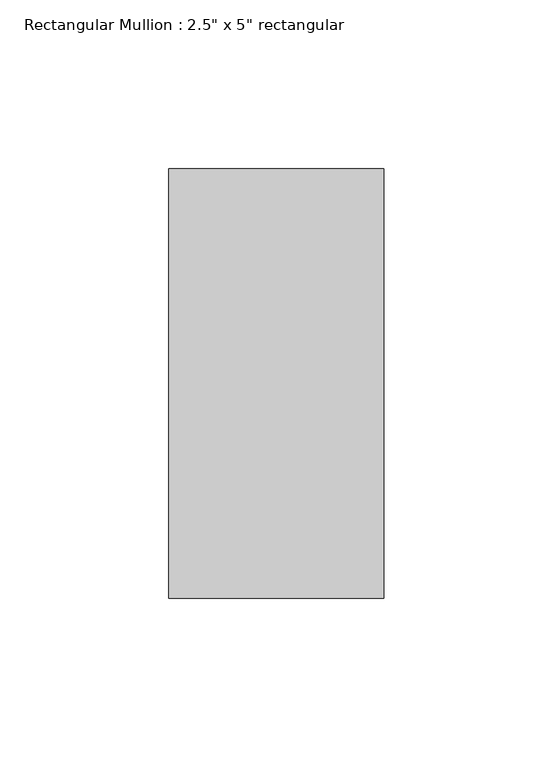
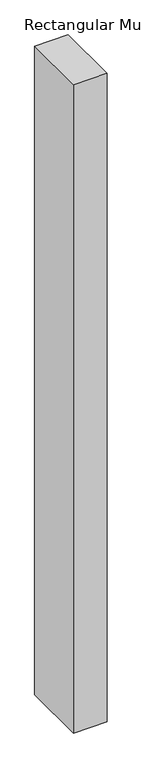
"""IFC4 building model written with IfcOpenShell, lengths in millimetres: member geometry."""

from ifc_helpers import new_model, si_unit, frame, origin, place, context, project, spatial, polyline, outline, extrude, source, transform, mapped, element, save


def member_7bb4584e(model_context):
    return source(origin(), model_context, "Body", "SweptSolid", [
        extrude(outline(polyline([(0.0, 63.5), (0.0, -63.5), (-63.5, -63.5), (-63.5, 63.5), (0.0, 63.5)])), frame((0.0, 0.0, -1296.3071429), z_axis=(0.0, 0.0, 1.0), x_axis=(1.0, 0.0, 0.0)), (0.0, 0.0, 1.0), 1296.3071429),
    ])


if __name__ == "__main__":
    model = new_model("IFC4")
    model_context = context("Model", 3, world=origin())
    ifc_project = project(units=[si_unit("LENGTHUNIT", "METRE", prefix="MILLI")], contexts=[model_context])
    site = spatial("IfcSite", under=ifc_project)
    building = spatial("IfcBuilding", under=site)
    placement = place(None, origin())
    member_shape = member_7bb4584e(model_context)
    element("IfcMember", 1, ObjectType="Rectangular Mullion : 2.5\" x 5\" rectangular", at=placement, inside=building, context=model_context, shape_type="MappedRepresentation", body=[
        mapped(member_shape, transform((0.0, 0.0, 0.0), x_axis=(1.0, 0.0, 0.0), y_axis=(0.0, 1.0, 0.0), z_axis=(0.0, 0.0, 1.0))),
    ])
    save(model, "model.ifc")
